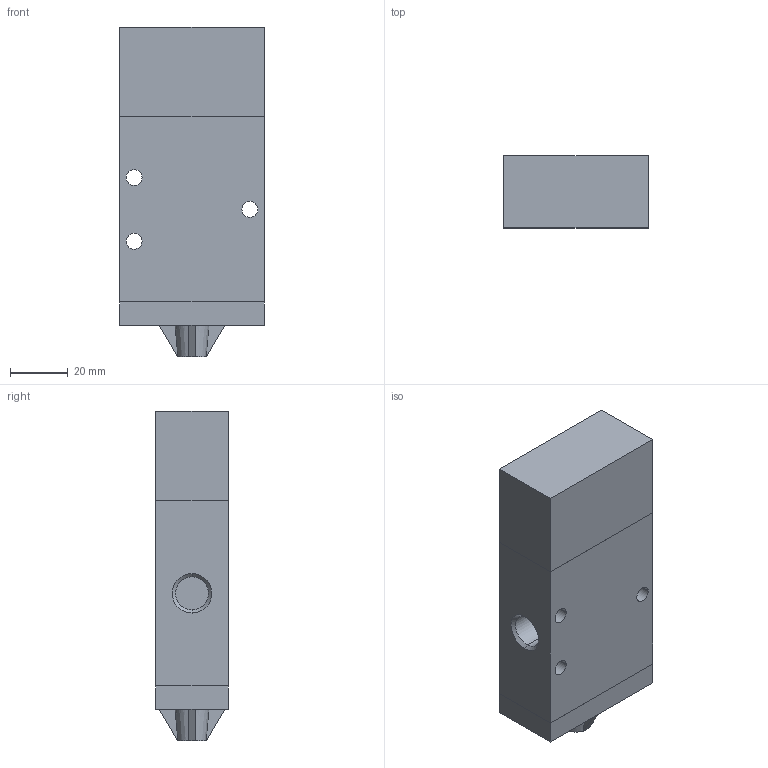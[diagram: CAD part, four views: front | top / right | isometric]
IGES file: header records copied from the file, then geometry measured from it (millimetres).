
Global section: file name: No Iges File Name specified; native system: AutoDesk Inventor R11.0; preprocessor: AutoDesk Inventor Iges Exporter R11.0; author: No Author specified; organization: No Organization specified; date: 20061219.092153; units: millimetre
Bounding box: 50 x 25 x 114 mm (x, y, z)
Volume: 124199.2 mm3; surface area: 21019.4 mm2
Topology: 1 solids, 1 shells, 59 faces, 142 edges, 92 vertices
Faces by surface type: plane 29, bspline 20, revolution 6, cone 4
